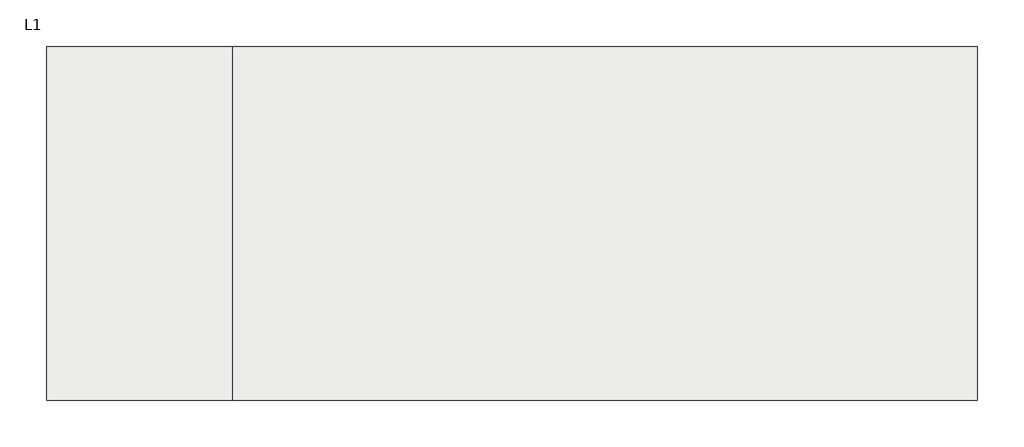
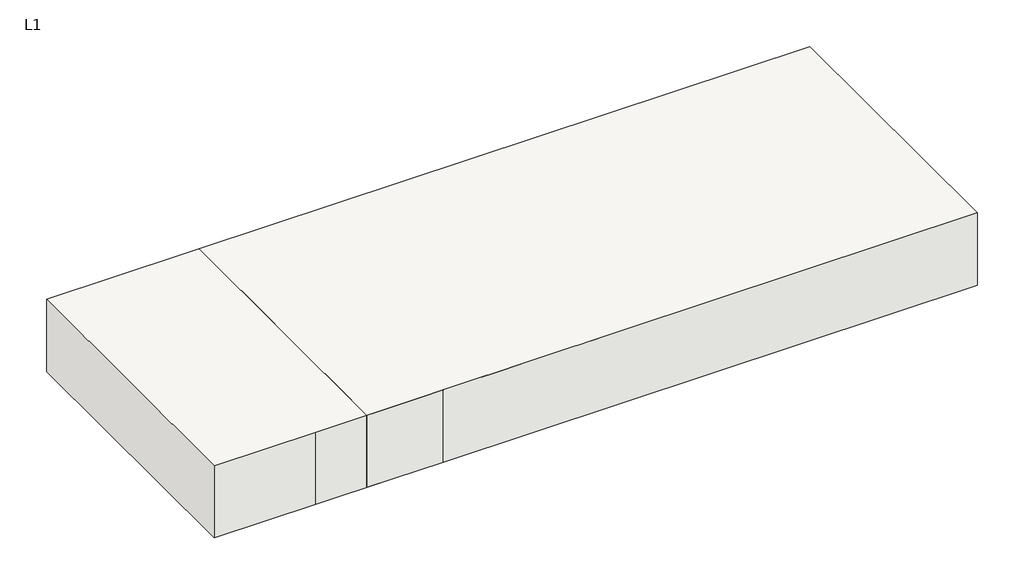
# One storey: 2 slabs.
"""IFC4 building model written with IfcOpenShell, lengths in millimetres."""

from ifc_helpers import new_model, si_unit, frame, origin, place, context, project, spatial, polyline, outline, extrude, element, save

model = new_model("IFC4")

# Units and contexts
model_context = context("Model", 3, world=origin())
ifc_project = project(units=[si_unit("LENGTHUNIT", "METRE", prefix="MILLI")], contexts=[model_context])

# Site, building, storey
site = spatial("IfcSite", under=ifc_project)
building = spatial("IfcBuilding", under=site)
storey = spatial("IfcBuildingStorey", under=building, Name="L1", Elevation=3000.0)

# Slabs
placement = place(None, origin())
element("IfcSlab", 1, ObjectType="DPG_Losa Principal Obra", at=placement, inside=storey, context=model_context, shape_type="SweptSolid", body=[
    extrude(outline(polyline([(7887.7202663, 15934.5302953), (7887.7202663, 14794.5302953), (5787.7202663, 14794.5302953), (5487.7202663, 14794.5302953), (5487.7202663, 15934.5302953), (7887.7202663, 15934.5302953)])), frame((0.0, 0.0, 2670.0), z_axis=(0.0, 0.0, 1.0), x_axis=(1.0, 0.0, 0.0)), (0.0, 0.0, 1.0), 300.0),
])
element("IfcSlab", 2, ObjectType="DPG_Losa Principal Obra", at=placement, inside=storey, context=model_context, shape_type="SweptSolid", body=[
    extrude(outline(polyline([(7887.7202663, 15934.5302953), (7887.7202663, 14794.5302953), (5287.7202663, 14794.5302953), (4887.7202663, 14794.5302953), (4887.7202663, 15934.5302953), (7887.7202663, 15934.5302953)])), frame((0.0, 0.0, 2670.0), z_axis=(0.0, 0.0, 1.0), x_axis=(1.0, 0.0, 0.0)), (0.0, 0.0, 1.0), 300.0),
])

save(model, "model.ifc")
